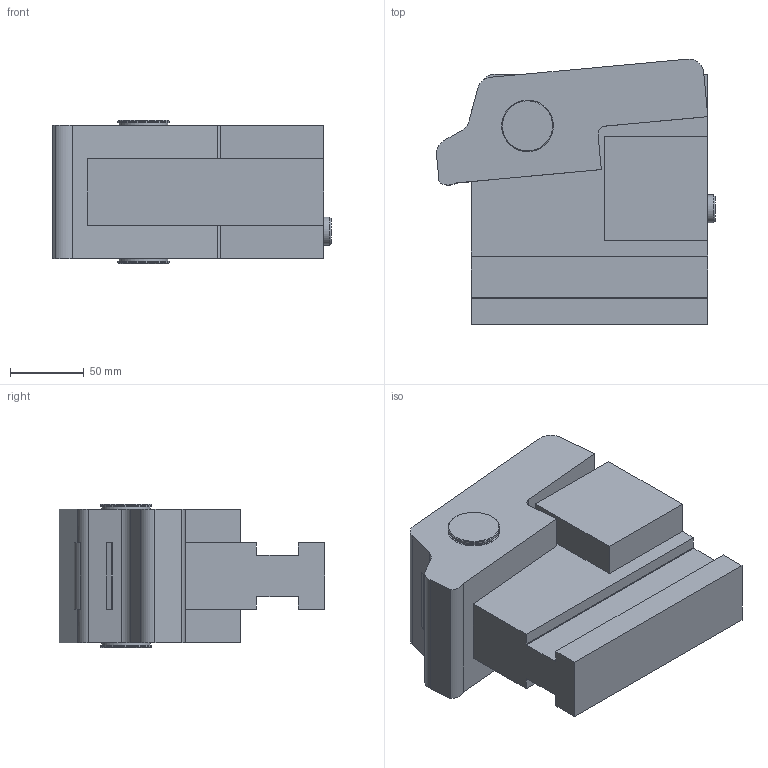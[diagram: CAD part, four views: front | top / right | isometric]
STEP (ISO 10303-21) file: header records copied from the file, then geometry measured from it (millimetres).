
FILE_DESCRIPTION(/* description */ (''),/* implementation_level */ '2;1');
FILE_NAME(/* name */ 'P:\Standard products\2. QDC Clamping Systems\11. ELY - Rocker Clamp\ELY Standard range\3d step files\ELY100_S (11-08-22).stp',/* time_stamp */ '2022-08-11T15:41:10+02:00',/* author */ ('schothorsth'),/* organization */ (''),/* preprocessor_version */ 'ST-DEVELOPER v17.2',/* originating_system */ 'Autodesk Inventor 2019',/* authorisation */ '');
FILE_SCHEMA (('AUTOMOTIVE_DESIGN { 1 0 10303 214 3 1 1 }'));
Length unit declared in the file: millimetre
Products named in the file (1): ELY100_S (11-08-22)
Bounding box: 188.57 x 179.64 x 97 mm (x, y, z)
Volume: 1859145.5 mm3; surface area: 127842.6 mm2
Topology: 1 solids, 1 shells, 70 faces, 189 edges, 129 vertices
Faces by surface type: plane 48, cylinder 19, cone 3
Full cylindrical faces by diameter (mm): 18.8 x1, 33 x2, 34.95 x4
Entity records: 2367 total; most frequent: CARTESIAN_POINT 389, DIRECTION 386, ORIENTED_EDGE 378, EDGE_CURVE 189, LINE 134, VECTOR 134, VERTEX_POINT 129, AXIS2_PLACEMENT_3D 126
